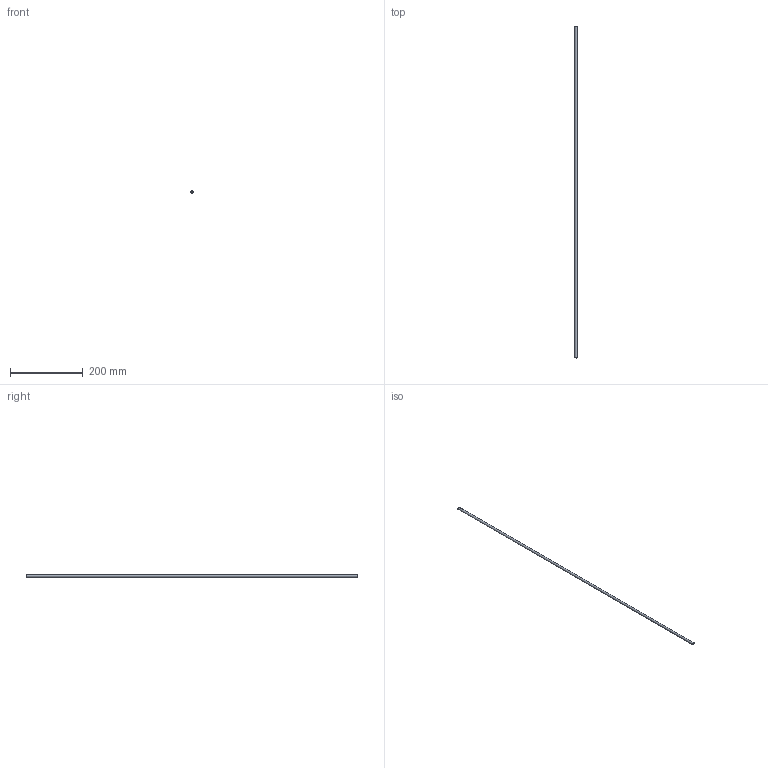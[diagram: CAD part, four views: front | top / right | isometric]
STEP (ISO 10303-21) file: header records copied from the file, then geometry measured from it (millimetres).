
FILE_DESCRIPTION(/* description */ (''),/* implementation_level */ '2;1');
FILE_NAME(/* name */ 'C:/Users/drich/Desktop/250T-36 v1.step',/* time_stamp */ '2019-12-27T17:29:00-06:00',/* author */ (''),/* organization */ (''),/* preprocessor_version */ 'ST-DEVELOPER v18',/* originating_system */ 'Autodesk Translation Framework v8.12.0.6',/* authorisation */ '');
FILE_SCHEMA (('AUTOMOTIVE_DESIGN { 1 0 10303 214 3 1 1 }'));
Length unit declared in the file: inch
Products named in the file (1): 250T-36
Bounding box: 6.24 x 914.4 x 6.24 mm (x, y, z)
Volume: 14602.4 mm3; surface area: 30366.4 mm2
Topology: 1 solids, 1 shells, 6 faces, 14 edges, 10 vertices
Faces by surface type: cone 2, cylinder 2, plane 2
Full cylindrical faces by diameter (mm): 4.318 x1, 6.243 x1
Entity records: 230 total; most frequent: DIRECTION 38, CARTESIAN_POINT 31, ORIENTED_EDGE 28, AXIS2_PLACEMENT_3D 17, EDGE_CURVE 14, CIRCLE 10, VERTEX_POINT 10, EDGE_LOOP 8
